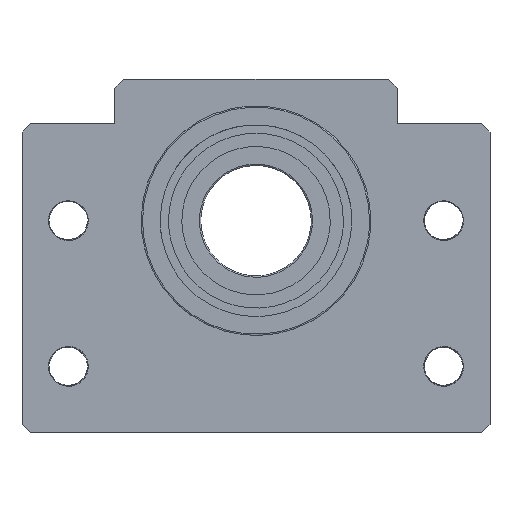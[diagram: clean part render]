
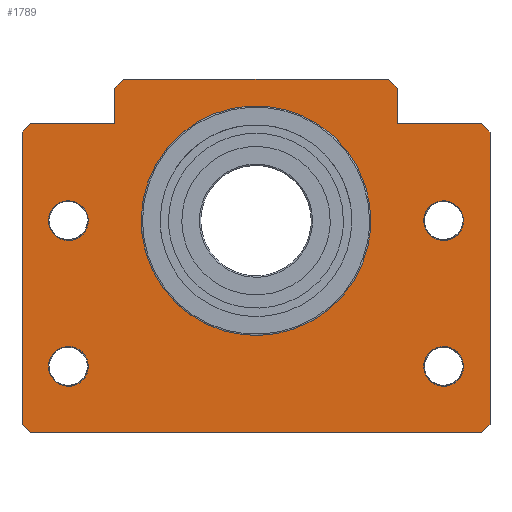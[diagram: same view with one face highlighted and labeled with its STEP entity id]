
A CAD part, front view. The second image highlights one B-rep face of the part: STEP entity #1789.
In plain terms, the highlighted free-form (B-spline) face has degree [1, 1] with [2, 2] control points.
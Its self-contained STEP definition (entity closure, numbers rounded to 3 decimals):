
#1050=CARTESIAN_POINT('',(26.,0.,0.));
#1051=VERTEX_POINT('',#1050);
#1057=CARTESIAN_POINT('',(26.,0.,0.));
#1058=CARTESIAN_POINT('',(26.,26.,0.));
#1059=CARTESIAN_POINT('',(0.,26.,0.));
#1060=CARTESIAN_POINT('',(-26.,26.,0.));
#1061=CARTESIAN_POINT('',(-26.,0.,0.));
#1062=CARTESIAN_POINT('',(-26.,-26.,0.));
#1063=CARTESIAN_POINT('',(0.,-26.,0.));
#1064=CARTESIAN_POINT('',(26.,-26.,0.));
#1065=CARTESIAN_POINT('',(26.,0.,0.));
#1066=(BOUNDED_CURVE()B_SPLINE_CURVE(2,(#1057,#1058,#1059,#1060,#1061,#1062,#1063,#1064,#1065),.UNSPECIFIED.,.T.,.U.)B_SPLINE_CURVE_WITH_KNOTS((3,2,2,2,3),(0.,0.25,0.5,0.75,1.),.UNSPECIFIED.)CURVE()GEOMETRIC_REPRESENTATION_ITEM()RATIONAL_B_SPLINE_CURVE((1.,0.707,1.,0.707,1.,0.707,1.,0.707,1.))REPRESENTATION_ITEM(''));
#1067=EDGE_CURVE('',#1051,#1051,#1066,.T.);
#1150=CARTESIAN_POINT('',(-53.,20.08,0.));
#1151=VERTEX_POINT('',#1150);
#1152=CARTESIAN_POINT('',(-53.,-46.08,0.));
#1153=VERTEX_POINT('',#1152);
#1154=CARTESIAN_POINT('',(-53.,20.08,0.));
#1155=CARTESIAN_POINT('',(-53.,-46.08,0.));
#1156=B_SPLINE_CURVE_WITH_KNOTS('',1,(#1154,#1155),.POLYLINE_FORM.,.F.,.U.,(2,2),(0.,1.),.UNSPECIFIED.);
#1157=EDGE_CURVE('',#1151,#1153,#1156,.T.);
#1186=CARTESIAN_POINT('',(-51.08,-48.,0.));
#1187=VERTEX_POINT('',#1186);
#1188=CARTESIAN_POINT('',(-53.,-46.08,0.));
#1189=CARTESIAN_POINT('',(-51.08,-48.,0.));
#1190=B_SPLINE_CURVE_WITH_KNOTS('',1,(#1188,#1189),.POLYLINE_FORM.,.F.,.U.,(2,2),(0.,1.),.UNSPECIFIED.);
#1191=EDGE_CURVE('',#1153,#1187,#1190,.T.);
#1214=CARTESIAN_POINT('',(51.08,-48.,0.));
#1215=VERTEX_POINT('',#1214);
#1216=CARTESIAN_POINT('',(53.,-46.08,0.));
#1217=VERTEX_POINT('',#1216);
#1218=CARTESIAN_POINT('',(51.08,-48.,0.));
#1219=CARTESIAN_POINT('',(53.,-46.08,0.));
#1220=B_SPLINE_CURVE_WITH_KNOTS('',1,(#1218,#1219),.POLYLINE_FORM.,.F.,.U.,(2,2),(0.,1.),.UNSPECIFIED.);
#1221=EDGE_CURVE('',#1215,#1217,#1220,.T.);
#1250=CARTESIAN_POINT('',(53.,20.08,0.));
#1251=VERTEX_POINT('',#1250);
#1252=CARTESIAN_POINT('',(53.,-46.08,0.));
#1253=CARTESIAN_POINT('',(53.,20.08,0.));
#1254=B_SPLINE_CURVE_WITH_KNOTS('',1,(#1252,#1253),.POLYLINE_FORM.,.F.,.U.,(2,2),(0.,1.),.UNSPECIFIED.);
#1255=EDGE_CURVE('',#1217,#1251,#1254,.T.);
#1278=CARTESIAN_POINT('',(-51.08,-48.,0.));
#1279=CARTESIAN_POINT('',(51.08,-48.,0.));
#1280=B_SPLINE_CURVE_WITH_KNOTS('',1,(#1278,#1279),.POLYLINE_FORM.,.F.,.U.,(2,2),(0.,1.),.UNSPECIFIED.);
#1281=EDGE_CURVE('',#1187,#1215,#1280,.T.);
#1338=CARTESIAN_POINT('',(51.08,22.,0.));
#1339=VERTEX_POINT('',#1338);
#1345=CARTESIAN_POINT('',(53.,20.08,0.));
#1346=CARTESIAN_POINT('',(51.08,22.,0.));
#1347=B_SPLINE_CURVE_WITH_KNOTS('',1,(#1345,#1346),.POLYLINE_FORM.,.F.,.U.,(2,2),(0.,1.),.UNSPECIFIED.);
#1348=EDGE_CURVE('',#1251,#1339,#1347,.T.);
#1374=CARTESIAN_POINT('',(32.,22.,0.));
#1375=VERTEX_POINT('',#1374);
#1381=CARTESIAN_POINT('',(51.08,22.,0.));
#1382=CARTESIAN_POINT('',(32.,22.,0.));
#1383=B_SPLINE_CURVE_WITH_KNOTS('',1,(#1381,#1382),.POLYLINE_FORM.,.F.,.U.,(2,2),(0.,1.),.UNSPECIFIED.);
#1384=EDGE_CURVE('',#1339,#1375,#1383,.T.);
#1395=CARTESIAN_POINT('',(32.,30.,0.));
#1396=VERTEX_POINT('',#1395);
#1397=CARTESIAN_POINT('',(32.,22.,0.));
#1398=CARTESIAN_POINT('',(32.,30.,0.));
#1399=B_SPLINE_CURVE_WITH_KNOTS('',1,(#1397,#1398),.POLYLINE_FORM.,.F.,.U.,(2,2),(0.,1.),.UNSPECIFIED.);
#1400=EDGE_CURVE('',#1375,#1396,#1399,.T.);
#1423=CARTESIAN_POINT('',(30.,32.,0.));
#1424=VERTEX_POINT('',#1423);
#1425=CARTESIAN_POINT('',(32.,30.,0.));
#1426=CARTESIAN_POINT('',(30.,32.,0.));
#1427=B_SPLINE_CURVE_WITH_KNOTS('',1,(#1425,#1426),.POLYLINE_FORM.,.F.,.U.,(2,2),(0.,1.),.UNSPECIFIED.);
#1428=EDGE_CURVE('',#1396,#1424,#1427,.T.);
#1451=CARTESIAN_POINT('',(-30.,32.,0.));
#1452=VERTEX_POINT('',#1451);
#1453=CARTESIAN_POINT('',(30.,32.,0.));
#1454=CARTESIAN_POINT('',(-30.,32.,0.));
#1455=B_SPLINE_CURVE_WITH_KNOTS('',1,(#1453,#1454),.POLYLINE_FORM.,.F.,.U.,(2,2),(0.,1.),.UNSPECIFIED.);
#1456=EDGE_CURVE('',#1424,#1452,#1455,.T.);
#1479=CARTESIAN_POINT('',(-32.,30.,0.));
#1480=VERTEX_POINT('',#1479);
#1481=CARTESIAN_POINT('',(-30.,32.,0.));
#1482=CARTESIAN_POINT('',(-32.,30.,0.));
#1483=B_SPLINE_CURVE_WITH_KNOTS('',1,(#1481,#1482),.POLYLINE_FORM.,.F.,.U.,(2,2),(0.,1.),.UNSPECIFIED.);
#1484=EDGE_CURVE('',#1452,#1480,#1483,.T.);
#1507=CARTESIAN_POINT('',(-32.,22.,0.));
#1508=VERTEX_POINT('',#1507);
#1509=CARTESIAN_POINT('',(-32.,30.,0.));
#1510=CARTESIAN_POINT('',(-32.,22.,0.));
#1511=B_SPLINE_CURVE_WITH_KNOTS('',1,(#1509,#1510),.POLYLINE_FORM.,.F.,.U.,(2,2),(0.,1.),.UNSPECIFIED.);
#1512=EDGE_CURVE('',#1480,#1508,#1511,.T.);
#1566=CARTESIAN_POINT('',(-51.08,22.,0.));
#1567=VERTEX_POINT('',#1566);
#1573=CARTESIAN_POINT('',(-32.,22.,0.));
#1574=CARTESIAN_POINT('',(-51.08,22.,0.));
#1575=B_SPLINE_CURVE_WITH_KNOTS('',1,(#1573,#1574),.POLYLINE_FORM.,.F.,.U.,(2,2),(0.,1.),.UNSPECIFIED.);
#1576=EDGE_CURVE('',#1508,#1567,#1575,.T.);
#1606=CARTESIAN_POINT('',(-51.08,22.,0.));
#1607=CARTESIAN_POINT('',(-53.,20.08,0.));
#1608=B_SPLINE_CURVE_WITH_KNOTS('',1,(#1606,#1607),.POLYLINE_FORM.,.F.,.U.,(2,2),(0.,1.),.UNSPECIFIED.);
#1609=EDGE_CURVE('',#1567,#1151,#1608,.T.);
#1709=CARTESIAN_POINT('',(-140.801,-140.801,0.));
#1710=CARTESIAN_POINT('',(-140.801,140.801,0.));
#1711=CARTESIAN_POINT('',(140.801,-140.801,0.));
#1712=CARTESIAN_POINT('',(140.801,140.801,0.));
#1713=B_SPLINE_SURFACE_WITH_KNOTS('',1,1,((#1709,#1710),(#1711,#1712)),.PLANE_SURF.,.F.,.F.,.U.,(2,2),(2,2),(0.,1.),(0.,1.),.UNSPECIFIED.);
#1714=ORIENTED_EDGE('',*,*,#1157,.T.);
#1715=ORIENTED_EDGE('',*,*,#1191,.T.);
#1716=ORIENTED_EDGE('',*,*,#1281,.T.);
#1717=ORIENTED_EDGE('',*,*,#1221,.T.);
#1718=ORIENTED_EDGE('',*,*,#1255,.T.);
#1719=ORIENTED_EDGE('',*,*,#1348,.T.);
#1720=ORIENTED_EDGE('',*,*,#1384,.T.);
#1721=ORIENTED_EDGE('',*,*,#1400,.T.);
#1722=ORIENTED_EDGE('',*,*,#1428,.T.);
#1723=ORIENTED_EDGE('',*,*,#1456,.T.);
#1724=ORIENTED_EDGE('',*,*,#1484,.T.);
#1725=ORIENTED_EDGE('',*,*,#1512,.T.);
#1726=ORIENTED_EDGE('',*,*,#1576,.T.);
#1727=ORIENTED_EDGE('',*,*,#1609,.T.);
#1728=EDGE_LOOP('',(#1714,#1715,#1716,#1717,#1718,#1719,#1720,#1721,#1722,#1723,#1724,#1725,#1726,#1727));
#1729=FACE_OUTER_BOUND('',#1728,.T.);
#1730=ORIENTED_EDGE('',*,*,#1067,.F.);
#1731=EDGE_LOOP('',(#1730));
#1732=FACE_BOUND('',#1731,.T.);
#1733=CARTESIAN_POINT('',(-38.,-33.,0.));
#1734=VERTEX_POINT('',#1733);
#1735=CARTESIAN_POINT('',(-38.,-33.,0.));
#1736=CARTESIAN_POINT('',(-38.,-25.206,0.));
#1737=CARTESIAN_POINT('',(-44.75,-29.103,0.));
#1738=CARTESIAN_POINT('',(-51.5,-33.,0.));
#1739=CARTESIAN_POINT('',(-44.75,-36.897,0.));
#1740=CARTESIAN_POINT('',(-38.,-40.794,0.));
#1741=CARTESIAN_POINT('',(-38.,-33.,0.));
#1742=(BOUNDED_CURVE()B_SPLINE_CURVE(2,(#1735,#1736,#1737,#1738,#1739,#1740,#1741),.CIRCULAR_ARC.,.T.,.U.)B_SPLINE_CURVE_WITH_KNOTS((3,2,2,3),(0.,0.333,0.667,1.),.UNSPECIFIED.)CURVE()GEOMETRIC_REPRESENTATION_ITEM()RATIONAL_B_SPLINE_CURVE((1.,0.5,1.,0.5,1.,0.5,1.))REPRESENTATION_ITEM(''));
#1743=EDGE_CURVE('',#1734,#1734,#1742,.T.);
#1744=ORIENTED_EDGE('',*,*,#1743,.F.);
#1745=EDGE_LOOP('',(#1744));
#1746=FACE_BOUND('',#1745,.T.);
#1747=CARTESIAN_POINT('',(47.,-33.,0.));
#1748=VERTEX_POINT('',#1747);
#1749=CARTESIAN_POINT('',(47.,-33.,0.));
#1750=CARTESIAN_POINT('',(47.,-25.206,0.));
#1751=CARTESIAN_POINT('',(40.25,-29.103,0.));
#1752=CARTESIAN_POINT('',(33.5,-33.,0.));
#1753=CARTESIAN_POINT('',(40.25,-36.897,0.));
#1754=CARTESIAN_POINT('',(47.,-40.794,0.));
#1755=CARTESIAN_POINT('',(47.,-33.,0.));
#1756=(BOUNDED_CURVE()B_SPLINE_CURVE(2,(#1749,#1750,#1751,#1752,#1753,#1754,#1755),.CIRCULAR_ARC.,.T.,.U.)B_SPLINE_CURVE_WITH_KNOTS((3,2,2,3),(0.,0.333,0.667,1.),.UNSPECIFIED.)CURVE()GEOMETRIC_REPRESENTATION_ITEM()RATIONAL_B_SPLINE_CURVE((1.,0.5,1.,0.5,1.,0.5,1.))REPRESENTATION_ITEM(''));
#1757=EDGE_CURVE('',#1748,#1748,#1756,.T.);
#1758=ORIENTED_EDGE('',*,*,#1757,.F.);
#1759=EDGE_LOOP('',(#1758));
#1760=FACE_BOUND('',#1759,.T.);
#1761=CARTESIAN_POINT('',(-38.,0.,0.));
#1762=VERTEX_POINT('',#1761);
#1763=CARTESIAN_POINT('',(-38.,0.,0.));
#1764=CARTESIAN_POINT('',(-38.,7.794,0.));
#1765=CARTESIAN_POINT('',(-44.75,3.897,0.));
#1766=CARTESIAN_POINT('',(-51.5,0.,0.));
#1767=CARTESIAN_POINT('',(-44.75,-3.897,0.));
#1768=CARTESIAN_POINT('',(-38.,-7.794,0.));
#1769=CARTESIAN_POINT('',(-38.,0.,0.));
#1770=(BOUNDED_CURVE()B_SPLINE_CURVE(2,(#1763,#1764,#1765,#1766,#1767,#1768,#1769),.CIRCULAR_ARC.,.T.,.U.)B_SPLINE_CURVE_WITH_KNOTS((3,2,2,3),(0.,0.333,0.667,1.),.UNSPECIFIED.)CURVE()GEOMETRIC_REPRESENTATION_ITEM()RATIONAL_B_SPLINE_CURVE((1.,0.5,1.,0.5,1.,0.5,1.))REPRESENTATION_ITEM(''));
#1771=EDGE_CURVE('',#1762,#1762,#1770,.T.);
#1772=ORIENTED_EDGE('',*,*,#1771,.F.);
#1773=EDGE_LOOP('',(#1772));
#1774=FACE_BOUND('',#1773,.T.);
#1775=CARTESIAN_POINT('',(47.,0.,0.));
#1776=VERTEX_POINT('',#1775);
#1777=CARTESIAN_POINT('',(47.,0.,0.));
#1778=CARTESIAN_POINT('',(47.,7.794,0.));
#1779=CARTESIAN_POINT('',(40.25,3.897,0.));
#1780=CARTESIAN_POINT('',(33.5,0.,0.));
#1781=CARTESIAN_POINT('',(40.25,-3.897,0.));
#1782=CARTESIAN_POINT('',(47.,-7.794,0.));
#1783=CARTESIAN_POINT('',(47.,0.,0.));
#1784=(BOUNDED_CURVE()B_SPLINE_CURVE(2,(#1777,#1778,#1779,#1780,#1781,#1782,#1783),.CIRCULAR_ARC.,.T.,.U.)B_SPLINE_CURVE_WITH_KNOTS((3,2,2,3),(0.,0.333,0.667,1.),.UNSPECIFIED.)CURVE()GEOMETRIC_REPRESENTATION_ITEM()RATIONAL_B_SPLINE_CURVE((1.,0.5,1.,0.5,1.,0.5,1.))REPRESENTATION_ITEM(''));
#1785=EDGE_CURVE('',#1776,#1776,#1784,.T.);
#1786=ORIENTED_EDGE('',*,*,#1785,.F.);
#1787=EDGE_LOOP('',(#1786));
#1788=FACE_BOUND('',#1787,.T.);
#1789=ADVANCED_FACE('',(#1729,#1732,#1746,#1760,#1774,#1788),#1713,.T.);
